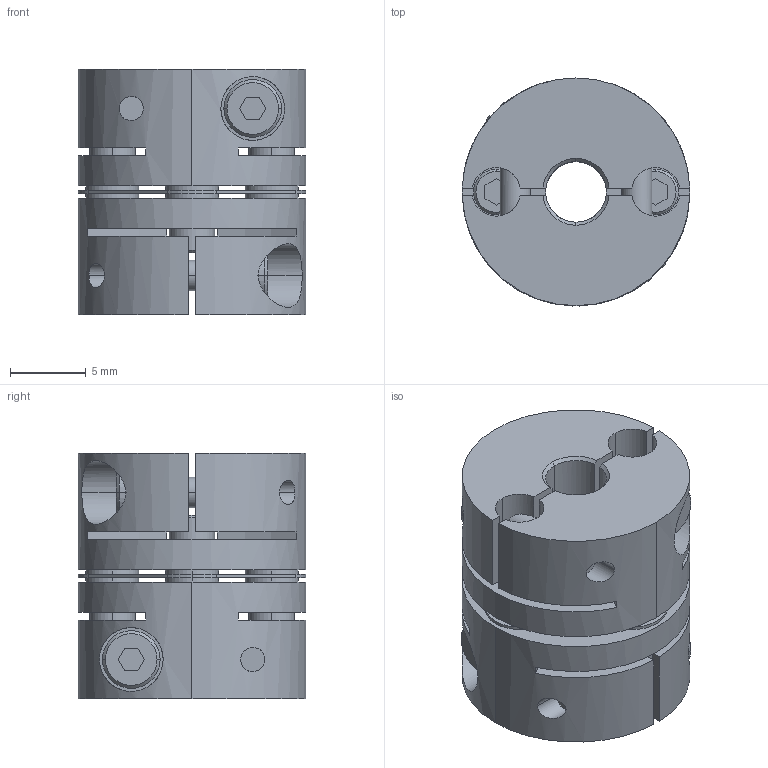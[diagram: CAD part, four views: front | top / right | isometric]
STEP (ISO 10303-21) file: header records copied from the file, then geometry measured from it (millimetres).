
FILE_DESCRIPTION((''),'2;1');
FILE_NAME('LAS-15C-4×4.stp','2011-08-09T14:19:13',(''),(''),'AutoCAD STEP 2000i','AutoCAD 2000i',', , ');
FILE_SCHEMA(('CONFIG_CONTROL_DESIGN'));
Length unit declared in the file: millimetre
Products named in the file (5): LAS-15C-3×3; 忣兜1; LA-1502-D03-1; LA-1502-D03; LAS15-ITA
Assembly tree (4 placements, depth 2):
  LAS-15C-3×3
    忣兜1
    LA-1502-D03-1
    LA-1502-D03
    LAS15-ITA
Bounding box: 15 x 15 x 16.2 mm (x, y, z)
Volume: 2214.8 mm3; surface area: 2705.9 mm2
Topology: 1 solids, 1 shells, 236 faces, 624 edges, 408 vertices
Faces by surface type: plane 112, cylinder 96, cone 28
Entity records: 8155 total; most frequent: CARTESIAN_POINT 1961, DIRECTION 1302, ORIENTED_EDGE 1248, EDGE_CURVE 624, AXIS2_PLACEMENT_3D 477, VERTEX_POINT 408, VECTOR 348, LINE 348
